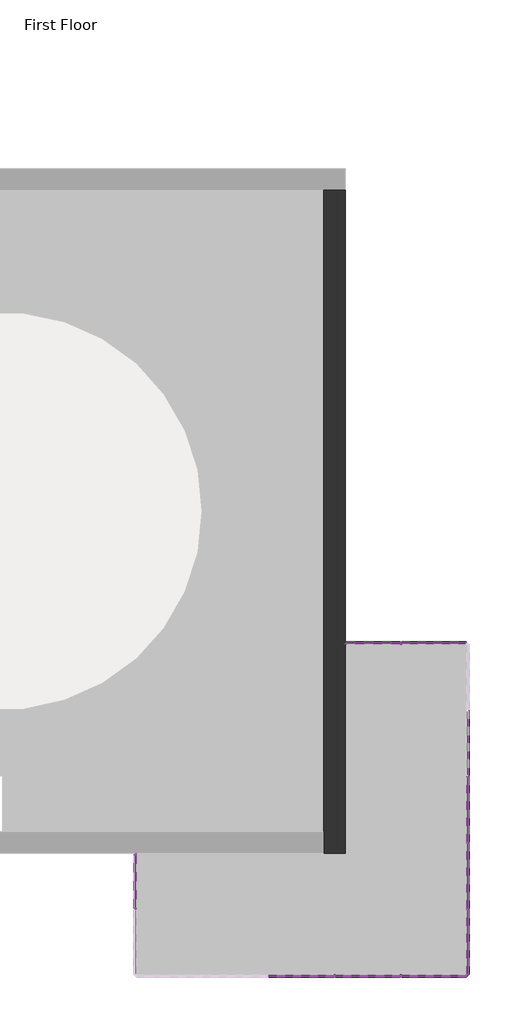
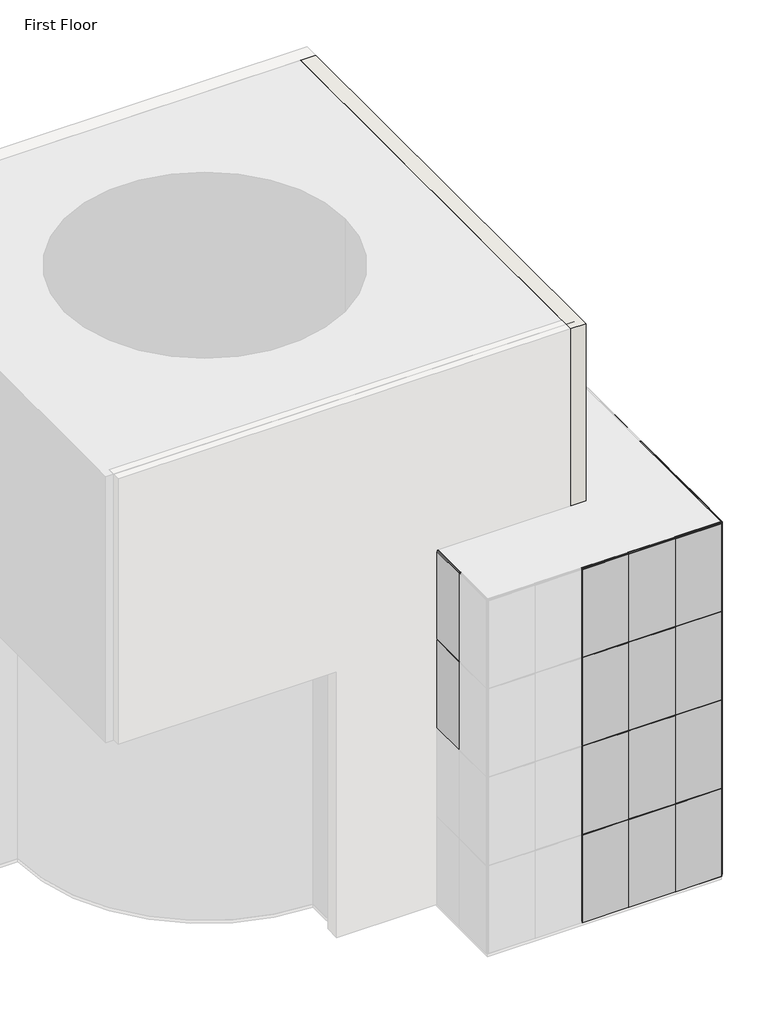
# One storey, part 2 of 4: 88 members, 38 plates, 1 wall.
"""IFC4 building model written with IfcOpenShell, lengths in millimetres."""

from ifc_helpers import new_model, si_unit, origin, place, context, project, spatial, faceted_brep, transform, mapped, element, save
from components import member_40ce1a5c, member_5e617a80, member_0d8d9af5, member_74941792, member_cbdb9076, member_7e523723, member_9fd3d903, member_6604d1e0, member_e0356dda, member_be0b070d, system_panel_glazed_9b7d687a, system_panel_glazed_3ccd4ad1, system_panel_glazed_9a901b4a, system_panel_glazed_ee91e337, system_panel_glazed_2d5e1d3d, system_panel_glazed_37964ea6, system_panel_glazed_a669fc9f, system_panel_glazed_51c864c8

model = new_model("IFC4")

# Units and contexts
model_context = context("Model", 3, world=origin())
ifc_project = project(units=[si_unit("LENGTHUNIT", "METRE", prefix="MILLI")], contexts=[model_context])

# Site, building, storey
site = spatial("IfcSite", under=ifc_project)
building = spatial("IfcBuilding", under=site)
storey = spatial("IfcBuildingStorey", under=building, Name="First Floor", Elevation=0.0)

# Members
placement = place(None, origin())
member_shape = member_40ce1a5c(model_context)
element("IfcMember", 1, ObjectType="Rectangular Mullion : 1\" Square", at=placement, inside=storey, context=model_context, shape_type="MappedRepresentation", body=[
    mapped(member_shape, transform((5418.7693843, -3733.9860776, 3048.0), x_axis=(0.0, 0.0, 1.0), y_axis=(0.0, 1.0, 0.0), z_axis=(-1.0, 0.0, 0.0))),
])
element("IfcMember", 2, ObjectType="Rectangular Mullion : 1\" Square", at=placement, inside=storey, context=model_context, shape_type="MappedRepresentation", body=[
    mapped(member_shape, transform((5418.7693843, -3733.9860776, 6096.0), x_axis=(0.0, 0.0, 1.0), y_axis=(0.0, 1.0, 0.0), z_axis=(-1.0, 0.0, 0.0))),
])
element("IfcMember", 3, ObjectType="Rectangular Mullion : 1\" Square", at=placement, inside=storey, context=model_context, shape_type="MappedRepresentation", body=[
    mapped(member_shape, transform((5418.7693843, -3733.9860776, 9144.0), x_axis=(0.0, 0.0, 1.0), y_axis=(0.0, 1.0, 0.0), z_axis=(-1.0, 0.0, 0.0))),
])
member_2_shape = member_5e617a80(model_context)
element("IfcMember", 4, ObjectType="Rectangular Mullion : 1\" Square", at=placement, inside=storey, context=model_context, shape_type="MappedRepresentation", body=[
    mapped(member_2_shape, transform((8171.4943843, -11353.9860776, 3048.0), x_axis=(0.0, 0.0, 1.0), y_axis=(0.0, -1.0, 0.0), z_axis=(1.0, 0.0, 0.0))),
])
element("IfcMember", 5, ObjectType="Rectangular Mullion : 1\" Square", at=placement, inside=storey, context=model_context, shape_type="MappedRepresentation", body=[
    mapped(member_2_shape, transform((8171.4943843, -11353.9860776, 6096.0), x_axis=(0.0, 0.0, 1.0), y_axis=(0.0, -1.0, 0.0), z_axis=(1.0, 0.0, 0.0))),
])
element("IfcMember", 6, ObjectType="Rectangular Mullion : 1\" Square", at=placement, inside=storey, context=model_context, shape_type="MappedRepresentation", body=[
    mapped(member_2_shape, transform((8171.4943843, -11353.9860776, 9144.0), x_axis=(0.0, 0.0, 1.0), y_axis=(0.0, -1.0, 0.0), z_axis=(1.0, 0.0, 0.0))),
])
element("IfcMember", 7, ObjectType="Rectangular Mullion : 1\" Square", at=placement, inside=storey, context=model_context, shape_type="MappedRepresentation", body=[
    mapped(member_2_shape, transform((8196.8943843, -9842.6860776, 3048.0), x_axis=(0.0, 0.0, 1.0), y_axis=(1.0, 0.0, 0.0), z_axis=(0.0, 1.0, 0.0))),
])
element("IfcMember", 8, ObjectType="Rectangular Mullion : 1\" Square", at=placement, inside=storey, context=model_context, shape_type="MappedRepresentation", body=[
    mapped(member_2_shape, transform((8196.8943843, -9842.6860776, 6096.0), x_axis=(0.0, 0.0, 1.0), y_axis=(1.0, 0.0, 0.0), z_axis=(0.0, 1.0, 0.0))),
])
element("IfcMember", 9, ObjectType="Rectangular Mullion : 1\" Square", at=placement, inside=storey, context=model_context, shape_type="MappedRepresentation", body=[
    mapped(member_2_shape, transform((8196.8943843, -9842.6860776, 9144.0), x_axis=(0.0, 0.0, 1.0), y_axis=(1.0, 0.0, 0.0), z_axis=(0.0, 1.0, 0.0))),
])
element("IfcMember", 10, ObjectType="Rectangular Mullion : 1\" Square", at=placement, inside=storey, context=model_context, shape_type="MappedRepresentation", body=[
    mapped(member_2_shape, transform((6685.5943843, -3733.9860776, 3048.0), x_axis=(0.0, 0.0, 1.0), y_axis=(0.0, 1.0, 0.0), z_axis=(-1.0, 0.0, 0.0))),
])
element("IfcMember", 11, ObjectType="Rectangular Mullion : 1\" Square", at=placement, inside=storey, context=model_context, shape_type="MappedRepresentation", body=[
    mapped(member_2_shape, transform((6685.5943843, -3733.9860776, 6096.0), x_axis=(0.0, 0.0, 1.0), y_axis=(0.0, 1.0, 0.0), z_axis=(-1.0, 0.0, 0.0))),
])
element("IfcMember", 12, ObjectType="Rectangular Mullion : 1\" Square", at=placement, inside=storey, context=model_context, shape_type="MappedRepresentation", body=[
    mapped(member_2_shape, transform((6685.5943843, -3733.9860776, 9144.0), x_axis=(0.0, 0.0, 1.0), y_axis=(0.0, 1.0, 0.0), z_axis=(-1.0, 0.0, 0.0))),
])
member_3_shape = member_0d8d9af5(model_context)
element("IfcMember", 13, ObjectType="Rectangular Mullion : 1\" Square", at=placement, inside=storey, context=model_context, shape_type="MappedRepresentation", body=[
    mapped(member_3_shape, transform((6660.1943843, -3733.9860776, 0.0), x_axis=(0.0, 0.0, -1.0), y_axis=(0.0, 1.0, 0.0), z_axis=(1.0, 0.0, 0.0))),
])
member_4_shape = member_74941792(model_context)
element("IfcMember", 14, ObjectType="Rectangular Mullion : 1\" Square", at=placement, inside=storey, context=model_context, shape_type="MappedRepresentation", body=[
    mapped(member_4_shape, transform((8171.4943843, -11353.9860776, 12192.0), x_axis=(0.0, 0.0, 1.0), y_axis=(0.0, -1.0, 0.0), z_axis=(1.0, 0.0, 0.0))),
])
element("IfcMember", 15, ObjectType="Rectangular Mullion : 1\" Square", at=placement, inside=storey, context=model_context, shape_type="MappedRepresentation", body=[
    mapped(member_4_shape, transform((8196.8943843, -9842.6860776, 12192.0), x_axis=(0.0, 0.0, 1.0), y_axis=(1.0, 0.0, 0.0), z_axis=(0.0, 1.0, 0.0))),
])
element("IfcMember", 16, ObjectType="Rectangular Mullion : 1\" Square", at=placement, inside=storey, context=model_context, shape_type="MappedRepresentation", body=[
    mapped(member_4_shape, transform((6685.5943843, -3733.9860776, 12192.0), x_axis=(0.0, 0.0, 1.0), y_axis=(0.0, 1.0, 0.0), z_axis=(-1.0, 0.0, 0.0))),
])
member_5_shape = member_cbdb9076(model_context)
element("IfcMember", 17, ObjectType="Rectangular Mullion : 1\" Square", at=placement, inside=storey, context=model_context, shape_type="MappedRepresentation", body=[
    mapped(member_5_shape, transform((576.8943843, -9826.8110776, 3048.0), x_axis=(0.0, -1.0, 0.0), y_axis=(-1.0, 0.0, 0.0), z_axis=(0.0, 0.0, -1.0))),
])
element("IfcMember", 18, ObjectType="Rectangular Mullion : 1\" Square", at=placement, inside=storey, context=model_context, shape_type="MappedRepresentation", body=[
    mapped(member_5_shape, transform((576.8943843, -9826.8110776, 6096.0), x_axis=(0.0, -1.0, 0.0), y_axis=(-1.0, 0.0, 0.0), z_axis=(0.0, 0.0, -1.0))),
])
element("IfcMember", 19, ObjectType="Rectangular Mullion : 1\" Square", at=placement, inside=storey, context=model_context, shape_type="MappedRepresentation", body=[
    mapped(member_5_shape, transform((5148.8943843, -11353.9860776, 3048.0), x_axis=(1.0, 0.0, 0.0), y_axis=(0.0, -1.0, 0.0), z_axis=(0.0, 0.0, -1.0))),
])
element("IfcMember", 20, ObjectType="Rectangular Mullion : 1\" Square", at=placement, inside=storey, context=model_context, shape_type="MappedRepresentation", body=[
    mapped(member_5_shape, transform((5148.8943843, -11353.9860776, 6096.0), x_axis=(1.0, 0.0, 0.0), y_axis=(0.0, -1.0, 0.0), z_axis=(0.0, 0.0, -1.0))),
])
element("IfcMember", 21, ObjectType="Rectangular Mullion : 1\" Square", at=placement, inside=storey, context=model_context, shape_type="MappedRepresentation", body=[
    mapped(member_5_shape, transform((6672.8943843, -11353.9860776, 3048.0), x_axis=(1.0, 0.0, 0.0), y_axis=(0.0, -1.0, 0.0), z_axis=(0.0, 0.0, -1.0))),
])
element("IfcMember", 22, ObjectType="Rectangular Mullion : 1\" Square", at=placement, inside=storey, context=model_context, shape_type="MappedRepresentation", body=[
    mapped(member_5_shape, transform((6672.8943843, -11353.9860776, 6096.0), x_axis=(1.0, 0.0, 0.0), y_axis=(0.0, -1.0, 0.0), z_axis=(0.0, 0.0, -1.0))),
])
element("IfcMember", 23, ObjectType="Rectangular Mullion : 1\" Square", at=placement, inside=storey, context=model_context, shape_type="MappedRepresentation", body=[
    mapped(member_5_shape, transform((8196.8943843, -8305.9860776, 6096.0), x_axis=(0.0, 1.0, 0.0), y_axis=(1.0, 0.0, 0.0), z_axis=(0.0, 0.0, -1.0))),
])
element("IfcMember", 24, ObjectType="Rectangular Mullion : 1\" Square", at=placement, inside=storey, context=model_context, shape_type="MappedRepresentation", body=[
    mapped(member_5_shape, transform((8196.8943843, -6781.9860776, 3048.0), x_axis=(0.0, 1.0, 0.0), y_axis=(1.0, 0.0, 0.0), z_axis=(0.0, 0.0, -1.0))),
])
element("IfcMember", 25, ObjectType="Rectangular Mullion : 1\" Square", at=placement, inside=storey, context=model_context, shape_type="MappedRepresentation", body=[
    mapped(member_5_shape, transform((8196.8943843, -6781.9860776, 6096.0), x_axis=(0.0, 1.0, 0.0), y_axis=(1.0, 0.0, 0.0), z_axis=(0.0, 0.0, -1.0))),
])
element("IfcMember", 26, ObjectType="Rectangular Mullion : 1\" Square", at=placement, inside=storey, context=model_context, shape_type="MappedRepresentation", body=[
    mapped(member_5_shape, transform((8196.8943843, -9829.9860776, 3048.0), x_axis=(0.0, 1.0, 0.0), y_axis=(1.0, 0.0, 0.0), z_axis=(0.0, 0.0, -1.0))),
])
element("IfcMember", 27, ObjectType="Rectangular Mullion : 1\" Square", at=placement, inside=storey, context=model_context, shape_type="MappedRepresentation", body=[
    mapped(member_5_shape, transform((8196.8943843, -9829.9860776, 6096.0), x_axis=(0.0, 1.0, 0.0), y_axis=(1.0, 0.0, 0.0), z_axis=(0.0, 0.0, -1.0))),
])
element("IfcMember", 28, ObjectType="Rectangular Mullion : 1\" Square", at=placement, inside=storey, context=model_context, shape_type="MappedRepresentation", body=[
    mapped(member_5_shape, transform((8196.8943843, -8305.9860776, 3048.0), x_axis=(0.0, 1.0, 0.0), y_axis=(1.0, 0.0, 0.0), z_axis=(0.0, 0.0, -1.0))),
])
element("IfcMember", 29, ObjectType="Rectangular Mullion : 1\" Square", at=placement, inside=storey, context=model_context, shape_type="MappedRepresentation", body=[
    mapped(member_5_shape, transform((6672.8943843, -3733.9860776, 3048.0), x_axis=(-1.0, 0.0, 0.0), y_axis=(0.0, 1.0, 0.0), z_axis=(0.0, 0.0, -1.0))),
])
element("IfcMember", 30, ObjectType="Rectangular Mullion : 1\" Square", at=placement, inside=storey, context=model_context, shape_type="MappedRepresentation", body=[
    mapped(member_5_shape, transform((6672.8943843, -3733.9860776, 6096.0), x_axis=(-1.0, 0.0, 0.0), y_axis=(0.0, 1.0, 0.0), z_axis=(0.0, 0.0, -1.0))),
])
element("IfcMember", 31, ObjectType="Rectangular Mullion : 1\" Square", at=placement, inside=storey, context=model_context, shape_type="MappedRepresentation", body=[
    mapped(member_5_shape, transform((576.8943843, -9826.8110776, 9144.0), x_axis=(0.0, -1.0, 0.0), y_axis=(-1.0, 0.0, 0.0), z_axis=(0.0, 0.0, -1.0))),
])
element("IfcMember", 32, ObjectType="Rectangular Mullion : 1\" Square", at=placement, inside=storey, context=model_context, shape_type="MappedRepresentation", body=[
    mapped(member_5_shape, transform((5148.8943843, -11353.9860776, 9144.0), x_axis=(1.0, 0.0, 0.0), y_axis=(0.0, -1.0, 0.0), z_axis=(0.0, 0.0, -1.0))),
])
element("IfcMember", 33, ObjectType="Rectangular Mullion : 1\" Square", at=placement, inside=storey, context=model_context, shape_type="MappedRepresentation", body=[
    mapped(member_5_shape, transform((6672.8943843, -11353.9860776, 9144.0), x_axis=(1.0, 0.0, 0.0), y_axis=(0.0, -1.0, 0.0), z_axis=(0.0, 0.0, -1.0))),
])
element("IfcMember", 34, ObjectType="Rectangular Mullion : 1\" Square", at=placement, inside=storey, context=model_context, shape_type="MappedRepresentation", body=[
    mapped(member_5_shape, transform((8196.8943843, -8305.9860776, 9144.0), x_axis=(0.0, 1.0, 0.0), y_axis=(1.0, 0.0, 0.0), z_axis=(0.0, 0.0, -1.0))),
])
element("IfcMember", 35, ObjectType="Rectangular Mullion : 1\" Square", at=placement, inside=storey, context=model_context, shape_type="MappedRepresentation", body=[
    mapped(member_5_shape, transform((8196.8943843, -6781.9860776, 9144.0), x_axis=(0.0, 1.0, 0.0), y_axis=(1.0, 0.0, 0.0), z_axis=(0.0, 0.0, -1.0))),
])
element("IfcMember", 36, ObjectType="Rectangular Mullion : 1\" Square", at=placement, inside=storey, context=model_context, shape_type="MappedRepresentation", body=[
    mapped(member_5_shape, transform((8196.8943843, -9829.9860776, 9144.0), x_axis=(0.0, 1.0, 0.0), y_axis=(1.0, 0.0, 0.0), z_axis=(0.0, 0.0, -1.0))),
])
element("IfcMember", 37, ObjectType="Rectangular Mullion : 1\" Square", at=placement, inside=storey, context=model_context, shape_type="MappedRepresentation", body=[
    mapped(member_5_shape, transform((6672.8943843, -3733.9860776, 9144.0), x_axis=(-1.0, 0.0, 0.0), y_axis=(0.0, 1.0, 0.0), z_axis=(0.0, 0.0, -1.0))),
])
element("IfcMember", 38, ObjectType="Rectangular Mullion : 1\" Square", at=placement, inside=storey, context=model_context, shape_type="MappedRepresentation", body=[
    mapped(member_5_shape, transform((576.8943843, -9826.8110776, 0.0), x_axis=(0.0, -1.0, 0.0), y_axis=(-1.0, 0.0, 0.0), z_axis=(0.0, 0.0, -1.0))),
])
element("IfcMember", 39, ObjectType="Rectangular Mullion : 1\" Square", at=placement, inside=storey, context=model_context, shape_type="MappedRepresentation", body=[
    mapped(member_5_shape, transform((6672.8943843, -11353.9860776, 0.0), x_axis=(1.0, 0.0, 0.0), y_axis=(0.0, -1.0, 0.0), z_axis=(0.0, 0.0, -1.0))),
])
element("IfcMember", 40, ObjectType="Rectangular Mullion : 1\" Square", at=placement, inside=storey, context=model_context, shape_type="MappedRepresentation", body=[
    mapped(member_5_shape, transform((5148.8943843, -11353.9860776, 0.0), x_axis=(1.0, 0.0, 0.0), y_axis=(0.0, -1.0, 0.0), z_axis=(0.0, 0.0, -1.0))),
])
element("IfcMember", 41, ObjectType="Rectangular Mullion : 1\" Square", at=placement, inside=storey, context=model_context, shape_type="MappedRepresentation", body=[
    mapped(member_5_shape, transform((8196.8943843, -9829.9860776, 0.0), x_axis=(0.0, 1.0, 0.0), y_axis=(1.0, 0.0, 0.0), z_axis=(0.0, 0.0, -1.0))),
])
element("IfcMember", 42, ObjectType="Rectangular Mullion : 1\" Square", at=placement, inside=storey, context=model_context, shape_type="MappedRepresentation", body=[
    mapped(member_5_shape, transform((8196.8943843, -8305.9860776, 0.0), x_axis=(0.0, 1.0, 0.0), y_axis=(1.0, 0.0, 0.0), z_axis=(0.0, 0.0, -1.0))),
])
element("IfcMember", 43, ObjectType="Rectangular Mullion : 1\" Square", at=placement, inside=storey, context=model_context, shape_type="MappedRepresentation", body=[
    mapped(member_5_shape, transform((6672.8943843, -3733.9860776, 0.0), x_axis=(-1.0, 0.0, 0.0), y_axis=(0.0, 1.0, 0.0), z_axis=(0.0, 0.0, -1.0))),
])
element("IfcMember", 44, ObjectType="Rectangular Mullion : 1\" Square", at=placement, inside=storey, context=model_context, shape_type="MappedRepresentation", body=[
    mapped(member_4_shape, transform((6685.5943843, -11353.9860776, 0.0), x_axis=(0.0, 0.0, -1.0), y_axis=(0.0, -1.0, 0.0), z_axis=(-1.0, 0.0, 0.0))),
])
element("IfcMember", 45, ObjectType="Rectangular Mullion : 1\" Square", at=placement, inside=storey, context=model_context, shape_type="MappedRepresentation", body=[
    mapped(member_4_shape, transform((8196.8943843, -11328.5860776, 0.0), x_axis=(0.0, 0.0, -1.0), y_axis=(1.0, 0.0, 0.0), z_axis=(0.0, -1.0, 0.0))),
])
element("IfcMember", 46, ObjectType="Rectangular Mullion : 1\" Square", at=placement, inside=storey, context=model_context, shape_type="MappedRepresentation", body=[
    mapped(member_3_shape, transform((5418.7693843, -3733.9860776, 12192.0), x_axis=(0.0, 0.0, 1.0), y_axis=(0.0, 1.0, 0.0), z_axis=(-1.0, 0.0, 0.0))),
])
member_6_shape = member_7e523723(model_context)
element("IfcMember", 47, ObjectType="Rectangular Mullion : 1\" Square", at=placement, inside=storey, context=model_context, shape_type="MappedRepresentation", body=[
    mapped(member_6_shape, transform((576.8943843, -8550.4610776, 12192.0), x_axis=(0.0, 1.0, 0.0), y_axis=(-1.0, 0.0, 0.0), z_axis=(0.0, 0.0, 1.0))),
])
element("IfcMember", 48, ObjectType="Rectangular Mullion : 1\" Square", at=placement, inside=storey, context=model_context, shape_type="MappedRepresentation", body=[
    mapped(member_6_shape, transform((8196.8943843, -11353.9860776, 12192.0), x_axis=(0.0, -1.0, 0.0), y_axis=(1.0, 0.0, 0.0), z_axis=(0.0, 0.0, 1.0))),
])
element("IfcMember", 49, ObjectType="Rectangular Mullion : 1\" Square", at=placement, inside=storey, context=model_context, shape_type="MappedRepresentation", body=[
    mapped(member_6_shape, transform((8196.8943843, -11353.9860776, 3048.0), x_axis=(1.0, 0.0, 0.0), y_axis=(0.0, -1.0, 0.0), z_axis=(0.0, 0.0, -1.0))),
])
element("IfcMember", 50, ObjectType="Rectangular Mullion : 1\" Square", at=placement, inside=storey, context=model_context, shape_type="MappedRepresentation", body=[
    mapped(member_6_shape, transform((8196.8943843, -11353.9860776, 6096.0), x_axis=(1.0, 0.0, 0.0), y_axis=(0.0, -1.0, 0.0), z_axis=(0.0, 0.0, -1.0))),
])
element("IfcMember", 51, ObjectType="Rectangular Mullion : 1\" Square", at=placement, inside=storey, context=model_context, shape_type="MappedRepresentation", body=[
    mapped(member_6_shape, transform((5393.3693843, -3733.9860776, 3048.0), x_axis=(-1.0, 0.0, 0.0), y_axis=(0.0, 1.0, 0.0), z_axis=(0.0, 0.0, -1.0))),
])
element("IfcMember", 52, ObjectType="Rectangular Mullion : 1\" Square", at=placement, inside=storey, context=model_context, shape_type="MappedRepresentation", body=[
    mapped(member_6_shape, transform((5393.3693843, -3733.9860776, 6096.0), x_axis=(-1.0, 0.0, 0.0), y_axis=(0.0, 1.0, 0.0), z_axis=(0.0, 0.0, -1.0))),
])
element("IfcMember", 53, ObjectType="Rectangular Mullion : 1\" Square", at=placement, inside=storey, context=model_context, shape_type="MappedRepresentation", body=[
    mapped(member_6_shape, transform((8196.8943843, -11353.9860776, 9144.0), x_axis=(1.0, 0.0, 0.0), y_axis=(0.0, -1.0, 0.0), z_axis=(0.0, 0.0, -1.0))),
])
element("IfcMember", 54, ObjectType="Rectangular Mullion : 1\" Square", at=placement, inside=storey, context=model_context, shape_type="MappedRepresentation", body=[
    mapped(member_6_shape, transform((5393.3693843, -3733.9860776, 9144.0), x_axis=(-1.0, 0.0, 0.0), y_axis=(0.0, 1.0, 0.0), z_axis=(0.0, 0.0, -1.0))),
])
element("IfcMember", 55, ObjectType="Rectangular Mullion : 1\" Square", at=placement, inside=storey, context=model_context, shape_type="MappedRepresentation", body=[
    mapped(member_6_shape, transform((576.8943843, -8550.4610776, 3048.0), x_axis=(0.0, 1.0, 0.0), y_axis=(-1.0, 0.0, 0.0), z_axis=(0.0, 0.0, 1.0))),
])
element("IfcMember", 56, ObjectType="Rectangular Mullion : 1\" Square", at=placement, inside=storey, context=model_context, shape_type="MappedRepresentation", body=[
    mapped(member_6_shape, transform((8196.8943843, -11353.9860776, 3048.0), x_axis=(0.0, -1.0, 0.0), y_axis=(1.0, 0.0, 0.0), z_axis=(0.0, 0.0, 1.0))),
])
element("IfcMember", 57, ObjectType="Rectangular Mullion : 1\" Square", at=placement, inside=storey, context=model_context, shape_type="MappedRepresentation", body=[
    mapped(member_6_shape, transform((576.8943843, -8550.4610776, 6096.0), x_axis=(0.0, 1.0, 0.0), y_axis=(-1.0, 0.0, 0.0), z_axis=(0.0, 0.0, 1.0))),
])
element("IfcMember", 58, ObjectType="Rectangular Mullion : 1\" Square", at=placement, inside=storey, context=model_context, shape_type="MappedRepresentation", body=[
    mapped(member_6_shape, transform((576.8943843, -8550.4610776, 9144.0), x_axis=(0.0, 1.0, 0.0), y_axis=(-1.0, 0.0, 0.0), z_axis=(0.0, 0.0, 1.0))),
])
element("IfcMember", 59, ObjectType="Rectangular Mullion : 1\" Square", at=placement, inside=storey, context=model_context, shape_type="MappedRepresentation", body=[
    mapped(member_6_shape, transform((8196.8943843, -11353.9860776, 6096.0), x_axis=(0.0, -1.0, 0.0), y_axis=(1.0, 0.0, 0.0), z_axis=(0.0, 0.0, 1.0))),
])
element("IfcMember", 60, ObjectType="Rectangular Mullion : 1\" Square", at=placement, inside=storey, context=model_context, shape_type="MappedRepresentation", body=[
    mapped(member_6_shape, transform((8196.8943843, -11353.9860776, 9144.0), x_axis=(0.0, -1.0, 0.0), y_axis=(1.0, 0.0, 0.0), z_axis=(0.0, 0.0, 1.0))),
])
element("IfcMember", 61, ObjectType="Rectangular Mullion : 1\" Square", at=placement, inside=storey, context=model_context, shape_type="MappedRepresentation", body=[
    mapped(member_6_shape, transform((8196.8943843, -11353.9860776, 0.0), x_axis=(1.0, 0.0, 0.0), y_axis=(0.0, -1.0, 0.0), z_axis=(0.0, 0.0, -1.0))),
])
element("IfcMember", 62, ObjectType="Rectangular Mullion : 1\" Square", at=placement, inside=storey, context=model_context, shape_type="MappedRepresentation", body=[
    mapped(member_6_shape, transform((5393.3693843, -3733.9860776, 0.0), x_axis=(-1.0, 0.0, 0.0), y_axis=(0.0, 1.0, 0.0), z_axis=(0.0, 0.0, -1.0))),
])
member_7_shape = member_9fd3d903(model_context)
element("IfcMember", 63, ObjectType="Rectangular Mullion : 1\" Square", at=placement, inside=storey, context=model_context, shape_type="MappedRepresentation", body=[
    mapped(member_7_shape, transform((5136.1943843, -11353.9860776, 3048.0), x_axis=(0.0, 0.0, 1.0), y_axis=(0.0, -1.0, 0.0), z_axis=(1.0, 0.0, 0.0))),
])
element("IfcMember", 64, ObjectType="Rectangular Mullion : 1\" Square", at=placement, inside=storey, context=model_context, shape_type="MappedRepresentation", body=[
    mapped(member_7_shape, transform((6660.1943843, -11353.9860776, 3048.0), x_axis=(0.0, 0.0, 1.0), y_axis=(0.0, -1.0, 0.0), z_axis=(1.0, 0.0, 0.0))),
])
element("IfcMember", 65, ObjectType="Rectangular Mullion : 1\" Square", at=placement, inside=storey, context=model_context, shape_type="MappedRepresentation", body=[
    mapped(member_7_shape, transform((5136.1943843, -11353.9860776, 6096.0), x_axis=(0.0, 0.0, 1.0), y_axis=(0.0, -1.0, 0.0), z_axis=(0.9999999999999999, 0.0, 0.0))),
])
element("IfcMember", 66, ObjectType="Rectangular Mullion : 1\" Square", at=placement, inside=storey, context=model_context, shape_type="MappedRepresentation", body=[
    mapped(member_7_shape, transform((6660.1943843, -11353.9860776, 6096.0), x_axis=(0.0, 0.0, 1.0), y_axis=(0.0, -1.0, 0.0), z_axis=(1.0, 0.0, 0.0))),
])
element("IfcMember", 67, ObjectType="Rectangular Mullion : 1\" Square", at=placement, inside=storey, context=model_context, shape_type="MappedRepresentation", body=[
    mapped(member_7_shape, transform((5136.1943843, -11353.9860776, 9144.0), x_axis=(0.0, 0.0, 1.0), y_axis=(0.0, -1.0, 0.0), z_axis=(1.0, 0.0, 0.0))),
])
element("IfcMember", 68, ObjectType="Rectangular Mullion : 1\" Square", at=placement, inside=storey, context=model_context, shape_type="MappedRepresentation", body=[
    mapped(member_7_shape, transform((6660.1943843, -11353.9860776, 9144.0), x_axis=(0.0, 0.0, 1.0), y_axis=(0.0, -1.0, 0.0), z_axis=(1.0, 0.0, 0.0))),
])
element("IfcMember", 69, ObjectType="Rectangular Mullion : 1\" Square", at=placement, inside=storey, context=model_context, shape_type="MappedRepresentation", body=[
    mapped(member_7_shape, transform((8196.8943843, -8318.6860776, 3048.0), x_axis=(0.0, 0.0, 1.0), y_axis=(1.0, 0.0, 0.0), z_axis=(0.0, 1.0, 0.0))),
])
element("IfcMember", 70, ObjectType="Rectangular Mullion : 1\" Square", at=placement, inside=storey, context=model_context, shape_type="MappedRepresentation", body=[
    mapped(member_7_shape, transform((8196.8943843, -6794.6860776, 3048.0), x_axis=(0.0, 0.0, 1.0), y_axis=(1.0, 0.0, 0.0), z_axis=(0.0, 1.0, 0.0))),
])
element("IfcMember", 71, ObjectType="Rectangular Mullion : 1\" Square", at=placement, inside=storey, context=model_context, shape_type="MappedRepresentation", body=[
    mapped(member_7_shape, transform((8196.8943843, -8318.6860776, 6096.0), x_axis=(0.0, 0.0, 1.0), y_axis=(1.0, 0.0, 0.0), z_axis=(0.0, 1.0, 0.0))),
])
element("IfcMember", 72, ObjectType="Rectangular Mullion : 1\" Square", at=placement, inside=storey, context=model_context, shape_type="MappedRepresentation", body=[
    mapped(member_7_shape, transform((8196.8943843, -6794.6860776, 6096.0), x_axis=(0.0, 0.0, 1.0), y_axis=(1.0, 0.0, 0.0), z_axis=(0.0, 1.0, 0.0))),
])
element("IfcMember", 73, ObjectType="Rectangular Mullion : 1\" Square", at=placement, inside=storey, context=model_context, shape_type="MappedRepresentation", body=[
    mapped(member_7_shape, transform((8196.8943843, -8318.6860776, 9144.0), x_axis=(0.0, 0.0, 1.0), y_axis=(1.0, 0.0, 0.0), z_axis=(0.0, 1.0, 0.0))),
])
element("IfcMember", 74, ObjectType="Rectangular Mullion : 1\" Square", at=placement, inside=storey, context=model_context, shape_type="MappedRepresentation", body=[
    mapped(member_7_shape, transform((8196.8943843, -6794.6860776, 9144.0), x_axis=(0.0, 0.0, 1.0), y_axis=(1.0, 0.0, 0.0), z_axis=(0.0, 1.0, 0.0))),
])
member_8_shape = member_6604d1e0(model_context)
element("IfcMember", 75, ObjectType="Rectangular Mullion : 1\" Square", at=placement, inside=storey, context=model_context, shape_type="MappedRepresentation", body=[
    mapped(member_8_shape, transform((6660.1943843, -11353.9860776, 12192.0), x_axis=(0.0, 0.0, 1.0), y_axis=(0.0, -1.0, 0.0), z_axis=(1.0, 0.0, 0.0))),
])
element("IfcMember", 76, ObjectType="Rectangular Mullion : 1\" Square", at=placement, inside=storey, context=model_context, shape_type="MappedRepresentation", body=[
    mapped(member_8_shape, transform((5136.1943843, -11353.9860776, 12192.0), x_axis=(0.0, 0.0, 1.0), y_axis=(0.0, -1.0, 0.0), z_axis=(1.0, 0.0, 0.0))),
])
element("IfcMember", 77, ObjectType="Rectangular Mullion : 1\" Square", at=placement, inside=storey, context=model_context, shape_type="MappedRepresentation", body=[
    mapped(member_8_shape, transform((8196.8943843, -8318.6860776, 12192.0), x_axis=(0.0, 0.0, 1.0), y_axis=(1.0, 0.0, 0.0), z_axis=(0.0, 1.0, 0.0))),
])
element("IfcMember", 78, ObjectType="Rectangular Mullion : 1\" Square", at=placement, inside=storey, context=model_context, shape_type="MappedRepresentation", body=[
    mapped(member_8_shape, transform((8196.8943843, -6794.6860776, 12192.0), x_axis=(0.0, 0.0, 1.0), y_axis=(1.0, 0.0, 0.0), z_axis=(0.0, 1.0, 0.0))),
])
element("IfcMember", 79, ObjectType="Rectangular Mullion : 1\" Square", at=placement, inside=storey, context=model_context, shape_type="MappedRepresentation", body=[
    mapped(member_8_shape, transform((576.8943843, -9839.5110776, 0.0), x_axis=(0.0, 0.0, -1.0), y_axis=(-1.0, 0.0, 0.0), z_axis=(0.0, 1.0, 0.0))),
])
element("IfcMember", 80, ObjectType="Rectangular Mullion : 1\" Square", at=placement, inside=storey, context=model_context, shape_type="MappedRepresentation", body=[
    mapped(member_8_shape, transform((5161.5943843, -11353.9860776, 0.0), x_axis=(0.0, 0.0, -1.0), y_axis=(0.0, -1.0, 0.0), z_axis=(-1.0, 0.0, 0.0))),
])
element("IfcMember", 81, ObjectType="Rectangular Mullion : 1\" Square", at=placement, inside=storey, context=model_context, shape_type="MappedRepresentation", body=[
    mapped(member_8_shape, transform((8196.8943843, -9817.2860776, 0.0), x_axis=(0.0, 0.0, -1.0), y_axis=(1.0, 0.0, 0.0), z_axis=(0.0, -1.0, 0.0))),
])
element("IfcMember", 82, ObjectType="Rectangular Mullion : 1\" Square", at=placement, inside=storey, context=model_context, shape_type="MappedRepresentation", body=[
    mapped(member_8_shape, transform((8196.8943843, -8293.2860776, 0.0), x_axis=(0.0, 0.0, -1.0), y_axis=(1.0, 0.0, 0.0), z_axis=(0.0, -1.0, 0.0))),
])
element("IfcMember", 83, ObjectType="Rectangular Mullion : 1\" Square", at=placement, inside=storey, context=model_context, shape_type="MappedRepresentation", body=[
    mapped(member_8_shape, transform((8196.8943843, -6769.2860776, 0.0), x_axis=(0.0, 0.0, -1.0), y_axis=(1.0, 0.0, 0.0), z_axis=(0.0, -1.0, 0.0))),
])
member_9_shape = member_e0356dda(model_context)
element("IfcMember", 84, ObjectType="Rectangular Mullion : 1\" Square", at=placement, inside=storey, context=model_context, shape_type="MappedRepresentation", body=[
    mapped(member_9_shape, transform((576.8943843, -9814.1110776, 3048.0), x_axis=(0.0, 0.0, 1.0), y_axis=(-1.0, 0.0, 0.0), z_axis=(0.0, -1.0, 0.0))),
])
element("IfcMember", 85, ObjectType="Rectangular Mullion : 1\" Square", at=placement, inside=storey, context=model_context, shape_type="MappedRepresentation", body=[
    mapped(member_9_shape, transform((576.8943843, -9814.1110776, 6096.0), x_axis=(0.0, 0.0, 1.0), y_axis=(-1.0, 0.0, 0.0), z_axis=(0.0, -1.0, 0.0))),
])
element("IfcMember", 86, ObjectType="Rectangular Mullion : 1\" Square", at=placement, inside=storey, context=model_context, shape_type="MappedRepresentation", body=[
    mapped(member_9_shape, transform((576.8943843, -9814.1110776, 9144.0), x_axis=(0.0, 0.0, 1.0), y_axis=(-1.0, 0.0, 0.0), z_axis=(0.0, -1.0, 0.0))),
])
member_10_shape = member_be0b070d(model_context)
element("IfcMember", 87, ObjectType="Rectangular Mullion : 1\" Square", at=placement, inside=storey, context=model_context, shape_type="MappedRepresentation", body=[
    mapped(member_10_shape, transform((576.8943843, -9814.1110776, 12192.0), x_axis=(0.0, 0.0, 1.0), y_axis=(-1.0, 0.0, 0.0), z_axis=(0.0, -1.0, 0.0))),
])
element("IfcMember", 88, ObjectType="Rectangular Mullion : 1\" Square", at=placement, inside=storey, context=model_context, shape_type="MappedRepresentation", body=[
    mapped(member_10_shape, transform((576.8943843, -8575.8610776, 0.0), x_axis=(0.0, 0.0, -1.0), y_axis=(-1.0, 0.0, 0.0), z_axis=(0.0, 1.0, 0.0))),
])

# Plates
system_panel_glazed_shape = system_panel_glazed_9b7d687a(model_context)
element("IfcPlate", 89, ObjectType="System Panel : Glazed", at=placement, inside=storey, context=model_context, shape_type="MappedRepresentation", body=[
    mapped(system_panel_glazed_shape, transform((7428.5443843, -11353.9860776, 25.4), x_axis=(1.0, 0.0, 0.0), y_axis=(0.0, 1.0, 0.0), z_axis=(0.0, 0.0, 1.0))),
])
element("IfcPlate", 90, ObjectType="System Panel : Glazed", at=placement, inside=storey, context=model_context, shape_type="MappedRepresentation", body=[
    mapped(system_panel_glazed_shape, transform((7428.5443843, -11353.9860776, 9156.7), x_axis=(1.0, 0.0, 0.0), y_axis=(0.0, 1.0, 0.0), z_axis=(0.0, 0.0, 1.0))),
])
element("IfcPlate", 91, ObjectType="System Panel : Glazed", at=placement, inside=storey, context=model_context, shape_type="MappedRepresentation", body=[
    mapped(system_panel_glazed_shape, transform((8196.8943843, -10585.6360776, 25.4), x_axis=(0.0, 1.0, 0.0), y_axis=(-1.0, 0.0, 0.0), z_axis=(0.0, 0.0, 1.0))),
])
element("IfcPlate", 92, ObjectType="System Panel : Glazed", at=placement, inside=storey, context=model_context, shape_type="MappedRepresentation", body=[
    mapped(system_panel_glazed_shape, transform((8196.8943843, -10585.6360776, 9156.7), x_axis=(0.0, 1.0, 0.0), y_axis=(-1.0, 0.0, 0.0), z_axis=(0.0, 0.0, 1.0))),
])
element("IfcPlate", 93, ObjectType="System Panel : Glazed", at=placement, inside=storey, context=model_context, shape_type="MappedRepresentation", body=[
    mapped(system_panel_glazed_shape, transform((7428.5443843, -3733.9860776, 25.4), x_axis=(-1.0, 0.0, 0.0), y_axis=(0.0, -1.0, 0.0), z_axis=(0.0, 0.0, 1.0))),
])
element("IfcPlate", 94, ObjectType="System Panel : Glazed", at=placement, inside=storey, context=model_context, shape_type="MappedRepresentation", body=[
    mapped(system_panel_glazed_shape, transform((7428.5443843, -3733.9860776, 9156.7), x_axis=(-1.0, 0.0, 0.0), y_axis=(0.0, -1.0, 0.0), z_axis=(0.0, 0.0, 1.0))),
])
system_panel_glazed_2_shape = system_panel_glazed_3ccd4ad1(model_context)
element("IfcPlate", 95, ObjectType="System Panel : Glazed", at=placement, inside=storey, context=model_context, shape_type="MappedRepresentation", body=[
    mapped(system_panel_glazed_2_shape, transform((6039.4818843, -3733.9860776, 25.4), x_axis=(-1.0, 0.0, 0.0), y_axis=(0.0, -1.0, 0.0), z_axis=(0.0, 0.0, 1.0))),
])
element("IfcPlate", 96, ObjectType="System Panel : Glazed", at=placement, inside=storey, context=model_context, shape_type="MappedRepresentation", body=[
    mapped(system_panel_glazed_2_shape, transform((6039.4818843, -3733.9860776, 9156.7), x_axis=(-1.0, 0.0, 0.0), y_axis=(0.0, -1.0, 0.0), z_axis=(0.0, 0.0, 1.0))),
])
system_panel_glazed_3_shape = system_panel_glazed_9a901b4a(model_context)
element("IfcPlate", 97, ObjectType="System Panel : Glazed", at=placement, inside=storey, context=model_context, shape_type="MappedRepresentation", body=[
    mapped(system_panel_glazed_3_shape, transform((7428.5443843, -11353.9860776, 3060.7), x_axis=(1.0, 0.0, 0.0), y_axis=(0.0, 1.0, 0.0), z_axis=(0.0, 0.0, 1.0))),
])
element("IfcPlate", 98, ObjectType="System Panel : Glazed", at=placement, inside=storey, context=model_context, shape_type="MappedRepresentation", body=[
    mapped(system_panel_glazed_3_shape, transform((7428.5443843, -11353.9860776, 6108.7), x_axis=(1.0, 0.0, 0.0), y_axis=(0.0, 1.0, 0.0), z_axis=(0.0, 0.0, 1.0))),
])
element("IfcPlate", 99, ObjectType="System Panel : Glazed", at=placement, inside=storey, context=model_context, shape_type="MappedRepresentation", body=[
    mapped(system_panel_glazed_3_shape, transform((8196.8943843, -10585.6360776, 3060.7), x_axis=(0.0, 1.0, 0.0), y_axis=(-1.0, 0.0, 0.0), z_axis=(0.0, 0.0, 1.0))),
])
element("IfcPlate", 100, ObjectType="System Panel : Glazed", at=placement, inside=storey, context=model_context, shape_type="MappedRepresentation", body=[
    mapped(system_panel_glazed_3_shape, transform((8196.8943843, -10585.6360776, 6108.7), x_axis=(0.0, 1.0, 0.0), y_axis=(-1.0, 0.0, 0.0), z_axis=(0.0, 0.0, 1.0))),
])
element("IfcPlate", 101, ObjectType="System Panel : Glazed", at=placement, inside=storey, context=model_context, shape_type="MappedRepresentation", body=[
    mapped(system_panel_glazed_3_shape, transform((7428.5443843, -3733.9860776, 3060.7), x_axis=(-1.0, 0.0, 0.0), y_axis=(0.0, -1.0, 0.0), z_axis=(0.0, 0.0, 1.0))),
])
element("IfcPlate", 102, ObjectType="System Panel : Glazed", at=placement, inside=storey, context=model_context, shape_type="MappedRepresentation", body=[
    mapped(system_panel_glazed_3_shape, transform((7428.5443843, -3733.9860776, 6108.7), x_axis=(-1.0, 0.0, 0.0), y_axis=(0.0, -1.0, 0.0), z_axis=(0.0, 0.0, 1.0))),
])
system_panel_glazed_4_shape = system_panel_glazed_ee91e337(model_context)
element("IfcPlate", 103, ObjectType="System Panel : Glazed", at=placement, inside=storey, context=model_context, shape_type="MappedRepresentation", body=[
    mapped(system_panel_glazed_4_shape, transform((6039.4818843, -3733.9860776, 3060.7), x_axis=(-1.0, 0.0, 0.0), y_axis=(0.0, -1.0, 0.0), z_axis=(0.0, 0.0, 1.0))),
])
element("IfcPlate", 104, ObjectType="System Panel : Glazed", at=placement, inside=storey, context=model_context, shape_type="MappedRepresentation", body=[
    mapped(system_panel_glazed_4_shape, transform((6039.4818843, -3733.9860776, 6108.7), x_axis=(-1.0, 0.0, 0.0), y_axis=(0.0, -1.0, 0.0), z_axis=(0.0, 0.0, 1.0))),
])
system_panel_glazed_5_shape = system_panel_glazed_2d5e1d3d(model_context)
element("IfcPlate", 105, ObjectType="System Panel : Glazed", at=placement, inside=storey, context=model_context, shape_type="MappedRepresentation", body=[
    mapped(system_panel_glazed_5_shape, transform((4386.8943843, -11353.9860776, 25.4), x_axis=(1.0, 0.0, 0.0), y_axis=(0.0, 1.0, 0.0), z_axis=(0.0, 0.0, 1.0))),
])
element("IfcPlate", 106, ObjectType="System Panel : Glazed", at=placement, inside=storey, context=model_context, shape_type="MappedRepresentation", body=[
    mapped(system_panel_glazed_5_shape, transform((5910.8943843, -11353.9860776, 25.4), x_axis=(1.0, 0.0, 0.0), y_axis=(0.0, 1.0, 0.0), z_axis=(0.0, 0.0, 1.0))),
])
element("IfcPlate", 107, ObjectType="System Panel : Glazed", at=placement, inside=storey, context=model_context, shape_type="MappedRepresentation", body=[
    mapped(system_panel_glazed_5_shape, transform((4386.8943843, -11353.9860776, 9156.7), x_axis=(1.0, 0.0, 0.0), y_axis=(0.0, 1.0, 0.0), z_axis=(0.0, 0.0, 1.0))),
])
element("IfcPlate", 108, ObjectType="System Panel : Glazed", at=placement, inside=storey, context=model_context, shape_type="MappedRepresentation", body=[
    mapped(system_panel_glazed_5_shape, transform((5910.8943843, -11353.9860776, 9156.7), x_axis=(1.0, 0.0, 0.0), y_axis=(0.0, 1.0, 0.0), z_axis=(0.0, 0.0, 1.0))),
])
element("IfcPlate", 109, ObjectType="System Panel : Glazed", at=placement, inside=storey, context=model_context, shape_type="MappedRepresentation", body=[
    mapped(system_panel_glazed_5_shape, transform((8196.8943843, -9067.9860776, 25.4), x_axis=(0.0, 1.0, 0.0), y_axis=(-1.0, 0.0, 0.0), z_axis=(0.0, 0.0, 1.0))),
])
element("IfcPlate", 110, ObjectType="System Panel : Glazed", at=placement, inside=storey, context=model_context, shape_type="MappedRepresentation", body=[
    mapped(system_panel_glazed_5_shape, transform((8196.8943843, -7543.9860776, 25.4), x_axis=(0.0, 1.0, 0.0), y_axis=(-1.0, 0.0, 0.0), z_axis=(0.0, 0.0, 1.0))),
])
element("IfcPlate", 111, ObjectType="System Panel : Glazed", at=placement, inside=storey, context=model_context, shape_type="MappedRepresentation", body=[
    mapped(system_panel_glazed_5_shape, transform((8196.8943843, -6019.9860776, 25.4), x_axis=(0.0, 1.0, 0.0), y_axis=(-1.0, 0.0, 0.0), z_axis=(0.0, 0.0, 1.0))),
])
element("IfcPlate", 112, ObjectType="System Panel : Glazed", at=placement, inside=storey, context=model_context, shape_type="MappedRepresentation", body=[
    mapped(system_panel_glazed_5_shape, transform((8196.8943843, -9067.9860776, 9156.7), x_axis=(0.0, 1.0, 0.0), y_axis=(-1.0, 0.0, 0.0), z_axis=(0.0, 0.0, 1.0))),
])
element("IfcPlate", 113, ObjectType="System Panel : Glazed", at=placement, inside=storey, context=model_context, shape_type="MappedRepresentation", body=[
    mapped(system_panel_glazed_5_shape, transform((8196.8943843, -7543.9860776, 9156.7), x_axis=(0.0, 1.0, 0.0), y_axis=(-1.0, 0.0, 0.0), z_axis=(0.0, 0.0, 1.0))),
])
element("IfcPlate", 114, ObjectType="System Panel : Glazed", at=placement, inside=storey, context=model_context, shape_type="MappedRepresentation", body=[
    mapped(system_panel_glazed_5_shape, transform((8196.8943843, -6019.9860776, 9156.7), x_axis=(0.0, 1.0, 0.0), y_axis=(-1.0, 0.0, 0.0), z_axis=(0.0, 0.0, 1.0))),
])
system_panel_glazed_6_shape = system_panel_glazed_37964ea6(model_context)
element("IfcPlate", 115, ObjectType="System Panel : Glazed", at=placement, inside=storey, context=model_context, shape_type="MappedRepresentation", body=[
    mapped(system_panel_glazed_6_shape, transform((4386.8943843, -11353.9860776, 3060.7), x_axis=(1.0, 0.0, 0.0), y_axis=(0.0, 1.0, 0.0), z_axis=(0.0, 0.0, 1.0))),
])
element("IfcPlate", 116, ObjectType="System Panel : Glazed", at=placement, inside=storey, context=model_context, shape_type="MappedRepresentation", body=[
    mapped(system_panel_glazed_6_shape, transform((5910.8943843, -11353.9860776, 3060.7), x_axis=(1.0, 0.0, 0.0), y_axis=(0.0, 1.0, 0.0), z_axis=(0.0, 0.0, 1.0))),
])
element("IfcPlate", 117, ObjectType="System Panel : Glazed", at=placement, inside=storey, context=model_context, shape_type="MappedRepresentation", body=[
    mapped(system_panel_glazed_6_shape, transform((4386.8943843, -11353.9860776, 6108.7), x_axis=(1.0, 0.0, 0.0), y_axis=(0.0, 1.0, 0.0), z_axis=(0.0, 0.0, 1.0))),
])
element("IfcPlate", 118, ObjectType="System Panel : Glazed", at=placement, inside=storey, context=model_context, shape_type="MappedRepresentation", body=[
    mapped(system_panel_glazed_6_shape, transform((5910.8943843, -11353.9860776, 6108.7), x_axis=(1.0, 0.0, 0.0), y_axis=(0.0, 1.0, 0.0), z_axis=(0.0, 0.0, 1.0))),
])
element("IfcPlate", 119, ObjectType="System Panel : Glazed", at=placement, inside=storey, context=model_context, shape_type="MappedRepresentation", body=[
    mapped(system_panel_glazed_6_shape, transform((8196.8943843, -9067.9860776, 3060.7), x_axis=(0.0, 1.0, 0.0), y_axis=(-1.0, 0.0, 0.0), z_axis=(0.0, 0.0, 1.0))),
])
element("IfcPlate", 120, ObjectType="System Panel : Glazed", at=placement, inside=storey, context=model_context, shape_type="MappedRepresentation", body=[
    mapped(system_panel_glazed_6_shape, transform((8196.8943843, -7543.9860776, 3060.7), x_axis=(0.0, 1.0, 0.0), y_axis=(-1.0, 0.0, 0.0), z_axis=(0.0, 0.0, 1.0))),
])
element("IfcPlate", 121, ObjectType="System Panel : Glazed", at=placement, inside=storey, context=model_context, shape_type="MappedRepresentation", body=[
    mapped(system_panel_glazed_6_shape, transform((8196.8943843, -6019.9860776, 3060.7), x_axis=(0.0, 1.0, 0.0), y_axis=(-1.0, 0.0, 0.0), z_axis=(0.0, 0.0, 1.0))),
])
element("IfcPlate", 122, ObjectType="System Panel : Glazed", at=placement, inside=storey, context=model_context, shape_type="MappedRepresentation", body=[
    mapped(system_panel_glazed_6_shape, transform((8196.8943843, -9067.9860776, 6108.7), x_axis=(0.0, 1.0, 0.0), y_axis=(-1.0, 0.0, 0.0), z_axis=(0.0, 0.0, 1.0))),
])
element("IfcPlate", 123, ObjectType="System Panel : Glazed", at=placement, inside=storey, context=model_context, shape_type="MappedRepresentation", body=[
    mapped(system_panel_glazed_6_shape, transform((8196.8943843, -7543.9860776, 6108.7), x_axis=(0.0, 1.0, 0.0), y_axis=(-1.0, 0.0, 0.0), z_axis=(0.0, 0.0, 1.0))),
])
element("IfcPlate", 124, ObjectType="System Panel : Glazed", at=placement, inside=storey, context=model_context, shape_type="MappedRepresentation", body=[
    mapped(system_panel_glazed_6_shape, transform((8196.8943843, -6019.9860776, 6108.7), x_axis=(0.0, 1.0, 0.0), y_axis=(-1.0, 0.0, 0.0), z_axis=(0.0, 0.0, 1.0))),
])
system_panel_glazed_7_shape = system_panel_glazed_a669fc9f(model_context)
element("IfcPlate", 125, ObjectType="System Panel : Glazed", at=placement, inside=storey, context=model_context, shape_type="MappedRepresentation", body=[
    mapped(system_panel_glazed_7_shape, transform((576.8943843, -9194.9860776, 9156.7), x_axis=(0.0, -1.0, 0.0), y_axis=(1.0, 0.0, 0.0), z_axis=(0.0, 0.0, 1.0))),
])
system_panel_glazed_8_shape = system_panel_glazed_51c864c8(model_context)
element("IfcPlate", 126, ObjectType="System Panel : Glazed", at=placement, inside=storey, context=model_context, shape_type="MappedRepresentation", body=[
    mapped(system_panel_glazed_8_shape, transform((576.8943843, -9194.9860776, 6108.7), x_axis=(0.0, -1.0, 0.0), y_axis=(1.0, 0.0, 0.0), z_axis=(0.0, 0.0, 1.0))),
])

# Wall
element("IfcWall", 127, ObjectType="Exterior - Brick on CMU", at=placement, inside=storey, context=model_context, shape_type="Brep", body=[
    faceted_brep([(5393.3693843, -8550.4610776, 0.0), (5393.3693843, 6683.1889224, 0.0), (5393.3693843, 6683.1889224, 18288.0), (5393.3693843, -8550.4610776, 18288.0), (4898.0693843, -8550.4610776, 0.0), (4898.0693843, -8550.4610776, 18288.0), (4898.0693843, -8055.1610776, 18288.0), (4898.0693843, 6683.1889224, 18288.0), (4898.0693843, 6683.1889224, 0.0), (4898.0693843, -8055.1610776, 0.0)], [[[0, 1, 2, 3]], [[4, 5, 6, 7, 8, 9]], [[1, 0, 4, 9, 8]], [[3, 2, 7, 6, 5]], [[0, 3, 5, 4]], [[2, 1, 8, 7]]]),
])

save(model, "model.ifc")
